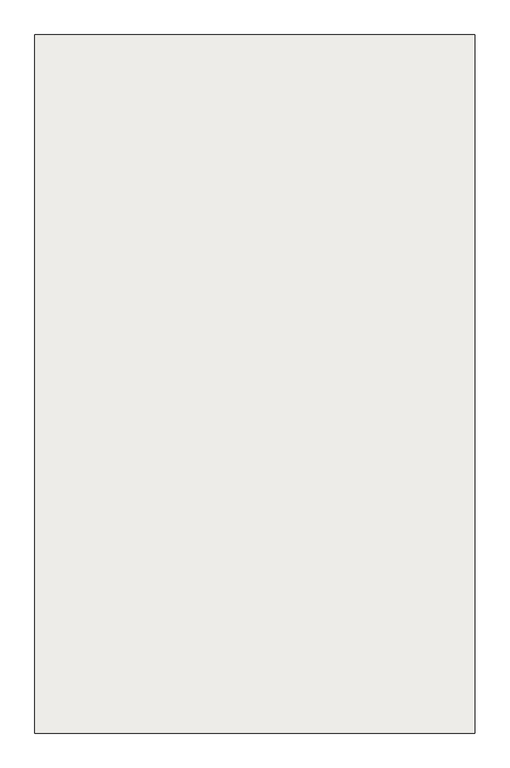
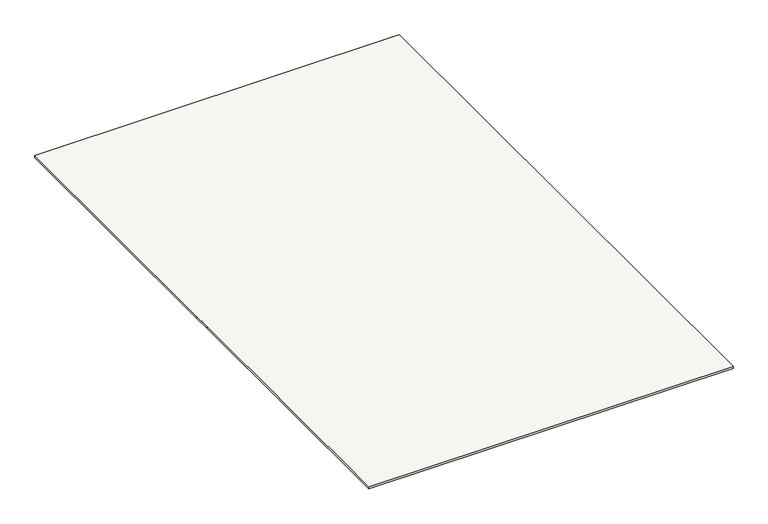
"""IFC4 building model written with IfcOpenShell, lengths in millimetres: slab geometry, Non-Monolitic_Landing."""

from ifc_helpers import new_model, si_unit, frame, origin, place, context, project, spatial, polyline, outline, extrude, source, transform, mapped, element, save


def slab_97ac4ff6(model_context):
    return source(origin(), model_context, "Body", "SweptSolid", [
        extrude(outline(polyline([(2198.5041438, 13524.1395051), (3748.5041438, 13524.1395051), (3748.5041438, 11064.6238126), (2198.5041438, 11064.6238126), (2198.5041438, 12254.6238126), (2198.5041438, 12334.1395051), (2198.5041438, 13524.1395051)])), frame((0.0, 0.0, 9375.0), z_axis=(0.0, 0.0, 1.0), x_axis=(1.0, 0.0, 0.0)), (0.0, 0.0, 1.0), 10.0),
    ])


if __name__ == "__main__":
    model = new_model("IFC4")
    model_context = context("Model", 3, world=origin())
    ifc_project = project(units=[si_unit("LENGTHUNIT", "METRE", prefix="MILLI")], contexts=[model_context])
    site = spatial("IfcSite", under=ifc_project)
    building = spatial("IfcBuilding", under=site)
    placement = place(None, origin())
    slab_shape = slab_97ac4ff6(model_context)
    element("IfcSlab", 1, ObjectType="Non-Monolitic_Landing", at=placement, inside=building, context=model_context, shape_type="MappedRepresentation", body=[
        mapped(slab_shape, transform((0.0, 0.0, 0.0), x_axis=(1.0, 0.0, 0.0), y_axis=(0.0, 1.0, 0.0), z_axis=(0.0, 0.0, 1.0))),
    ])
    save(model, "model.ifc")
